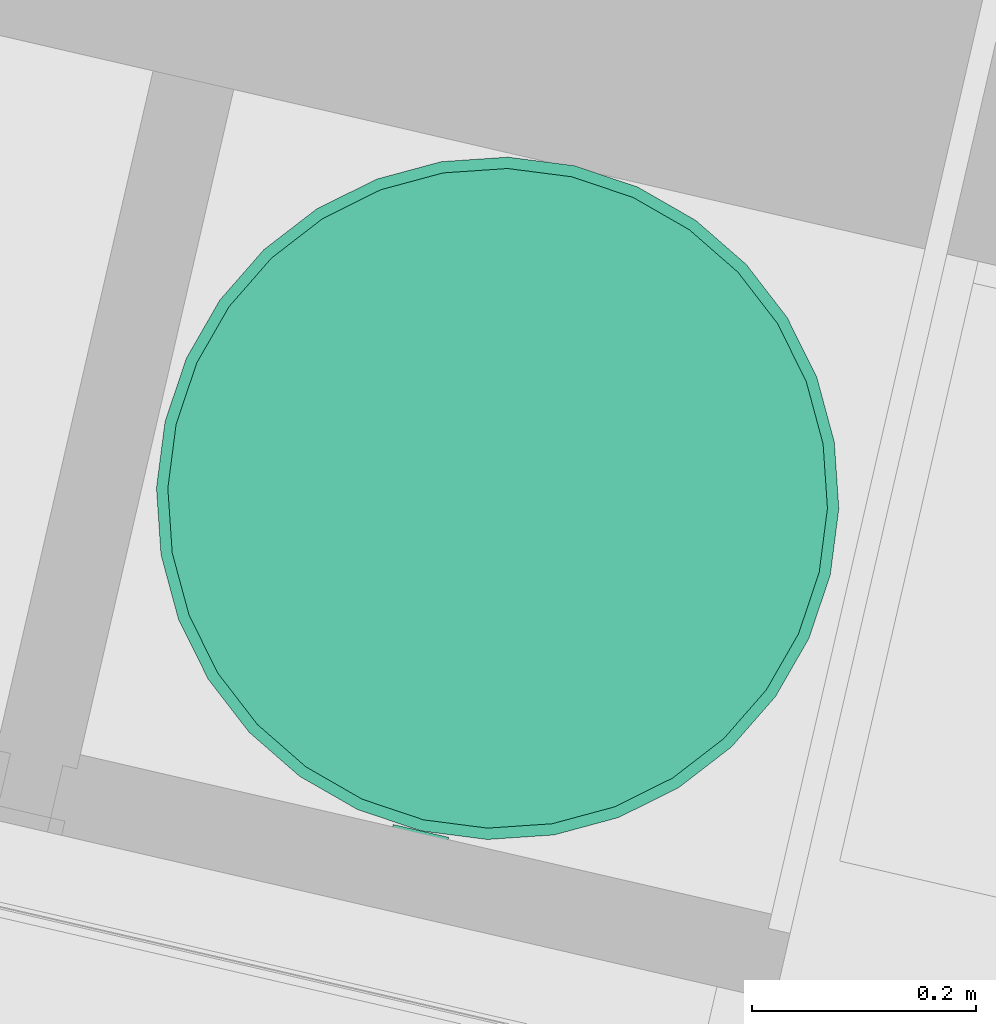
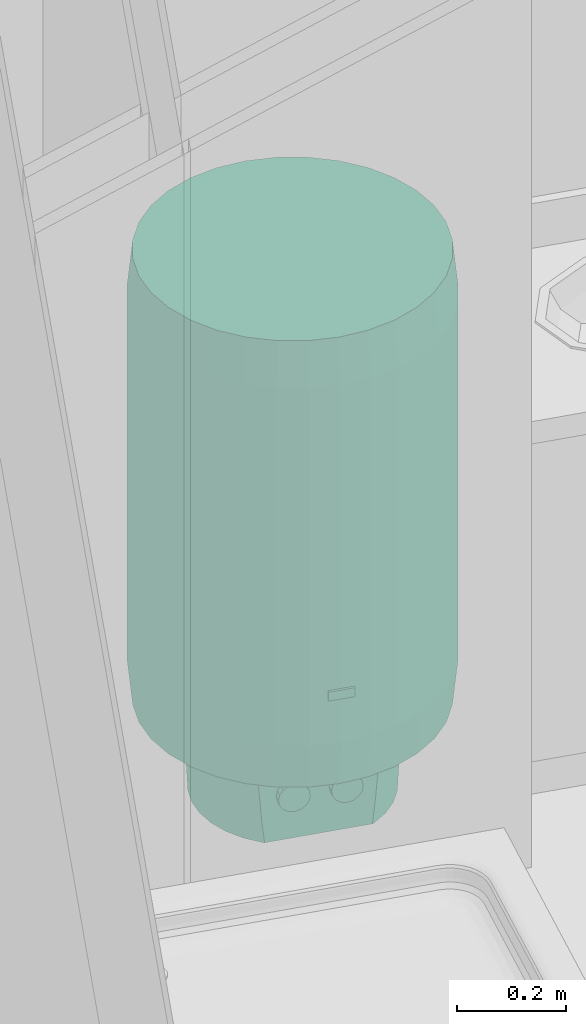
# One storey, part 50 of 62: 1 energy conversion device.
"""IFC2X3 building model written with IfcOpenShell, lengths in metres."""

from ifc_helpers import new_model, entity, si_unit, converted_unit, derived_unit, money_unit, direction, frame, origin_with_axes, place, context, subcontext, project, spatial, faceted_brep, source, transform, mapped, type_object, element, save


model = new_model("IFC2X3")

# Units and contexts
model_context = context("Model", 3, precision=1e-05, world=origin_with_axes(), true_north=direction((0.0, 1.0)))
body_context = subcontext(model_context, "Body", "Model", "MODEL_VIEW")
ifc_project = project(units=[si_unit("LENGTHUNIT", "METRE"), si_unit("AREAUNIT", "SQUARE_METRE"), si_unit("VOLUMEUNIT", "CUBIC_METRE"), converted_unit("PLANEANGLEUNIT", "DEGREE", entity("IfcPlaneAngleMeasure", 0.0174532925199), si_unit("PLANEANGLEUNIT", "RADIAN"), dimensions=[0, 0, 0, 0, 0, 0, 0]), si_unit("SOLIDANGLEUNIT", "STERADIAN"), money_unit("EUR"), converted_unit("TIMEUNIT", "Year", entity("IfcTimeMeasure", 31556926.0), si_unit("TIMEUNIT", "SECOND"), dimensions=[0, 0, 1, 0, 0, 0, 0]), si_unit("MASSUNIT", "GRAM", prefix="KILO"), si_unit("THERMODYNAMICTEMPERATUREUNIT", "DEGREE_CELSIUS"), si_unit("LUMINOUSINTENSITYUNIT", "LUMEN"), si_unit("ENERGYUNIT", "JOULE", prefix="MEGA"), derived_unit("THERMALCONDUCTANCEUNIT", [(si_unit("POWERUNIT", "WATT"), 1), (si_unit("LENGTHUNIT", "METRE"), -1), (si_unit("THERMODYNAMICTEMPERATUREUNIT", "KELVIN"), -1)]), derived_unit("SPECIFICHEATCAPACITYUNIT", [(si_unit("ENERGYUNIT", "JOULE"), 1), (si_unit("MASSUNIT", "GRAM", prefix="KILO"), -1), (si_unit("THERMODYNAMICTEMPERATUREUNIT", "KELVIN"), -1)]), derived_unit("MASSDENSITYUNIT", [(si_unit("MASSUNIT", "GRAM", prefix="KILO"), 1), (si_unit("VOLUMEUNIT", "CUBIC_METRE"), -1)])], contexts=[model_context])

# Site, building, storey
site_placement = place(None, origin_with_axes())
site = spatial("IfcSite", under=ifc_project, at=site_placement, Name="Site", CompositionType="ELEMENT")
building_placement = place(site_placement, origin_with_axes())
building = spatial("IfcBuilding", under=site, at=building_placement, Name="Bâtiment", CompositionType="ELEMENT")
storey_placement = place(building_placement, frame((0.0, 0.0, 8.16), z_axis=(0.0, 0.0, 1.0), x_axis=(1.0, 0.0, 0.0)))
storey = spatial("IfcBuildingStorey", under=building, at=storey_placement, Name="R+3", CompositionType="ELEMENT", Elevation=8.16)

# Energy conversion device
heat_exchanger_type = type_object("IfcHeatExchangerType", Name="Chauffe-eau électrique 23", PredefinedType="SHELLANDTUBE")
shared_shape = source(origin_with_axes(), body_context, "Body", "Brep", [
    faceted_brep([(-0.0254166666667, -0.310083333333, 0.4), (-0.0254166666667, -0.305, 0.4), (0.0254166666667, -0.305, 0.4), (0.0254166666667, -0.310083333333, 0.4), (-0.0254166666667, -0.310083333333, 0.42), (-0.0254166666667, -0.305, 0.42), (0.0254166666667, -0.305, 0.42), (0.0254166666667, -0.310083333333, 0.42)], [[[0, 1, 2, 3]], [[0, 4, 5, 1]], [[1, 5, 6, 2]], [[2, 6, 7, 3]], [[3, 7, 4, 0]], [[7, 6, 5, 4]]]),
    faceted_brep([(0.0226550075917, -0.162666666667, 0.0883281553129), (0.0203333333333, -0.162666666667, 0.1), (0.0226550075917, -0.162666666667, 0.111671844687), (0.0292665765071, -0.162666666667, 0.121566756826), (0.0391614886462, -0.162666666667, 0.128178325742), (0.0508333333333, -0.162666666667, 0.1305), (0.0625051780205, -0.162666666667, 0.128178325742), (0.0724000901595, -0.162666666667, 0.121566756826), (0.0790116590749, -0.162666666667, 0.111671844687), (0.0813333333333, -0.162666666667, 0.1), (0.0790116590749, -0.162666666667, 0.0883281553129), (0.0724000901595, -0.162666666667, 0.0784332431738), (0.0625051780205, -0.162666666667, 0.0718216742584), (0.0508333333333, -0.162666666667, 0.0695), (0.0391614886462, -0.162666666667, 0.0718216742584), (0.0292665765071, -0.162666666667, 0.0784332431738), (0.0226550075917, -0.177916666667, 0.0883281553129), (0.0203333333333, -0.177916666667, 0.1), (0.0226550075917, -0.177916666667, 0.111671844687), (0.0292665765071, -0.177916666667, 0.121566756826), (0.0391614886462, -0.177916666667, 0.128178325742), (0.0508333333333, -0.177916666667, 0.1305), (0.0625051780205, -0.177916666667, 0.128178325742), (0.0724000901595, -0.177916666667, 0.121566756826), (0.0790116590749, -0.177916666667, 0.111671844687), (0.0813333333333, -0.177916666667, 0.1), (0.0790116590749, -0.177916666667, 0.0883281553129), (0.0724000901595, -0.177916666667, 0.0784332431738), (0.0625051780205, -0.177916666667, 0.0718216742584), (0.0508333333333, -0.177916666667, 0.0695), (0.0391614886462, -0.177916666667, 0.0718216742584), (0.0292665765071, -0.177916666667, 0.0784332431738)], [[[0, 1, 2, 3, 4, 5, 6, 7, 8, 9, 10, 11, 12, 13, 14, 15]], [[0, 16, 17, 1]], [[1, 17, 18, 2]], [[2, 18, 19, 3]], [[3, 19, 20, 4]], [[4, 20, 21, 5]], [[5, 21, 22, 6]], [[6, 22, 23, 7]], [[7, 23, 24, 8]], [[8, 24, 25, 9]], [[9, 25, 26, 10]], [[10, 26, 27, 11]], [[11, 27, 28, 12]], [[12, 28, 29, 13]], [[13, 29, 30, 14]], [[14, 30, 31, 15]], [[15, 31, 16, 0]], [[16, 31, 30, 29, 28, 27, 26, 25, 24, 23, 22, 21, 20, 19, 18, 17]]]),
    faceted_brep([(-0.0790116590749, -0.162666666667, 0.0883281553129), (-0.0813333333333, -0.162666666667, 0.1), (-0.0790116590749, -0.162666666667, 0.111671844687), (-0.0724000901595, -0.162666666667, 0.121566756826), (-0.0625051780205, -0.162666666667, 0.128178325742), (-0.0508333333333, -0.162666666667, 0.1305), (-0.0391614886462, -0.162666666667, 0.128178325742), (-0.0292665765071, -0.162666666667, 0.121566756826), (-0.0226550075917, -0.162666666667, 0.111671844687), (-0.0203333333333, -0.162666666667, 0.1), (-0.0226550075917, -0.162666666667, 0.0883281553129), (-0.0292665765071, -0.162666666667, 0.0784332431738), (-0.0391614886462, -0.162666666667, 0.0718216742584), (-0.0508333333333, -0.162666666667, 0.0695), (-0.0625051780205, -0.162666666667, 0.0718216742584), (-0.0724000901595, -0.162666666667, 0.0784332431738), (-0.0790116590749, -0.177916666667, 0.0883281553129), (-0.0813333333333, -0.177916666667, 0.1), (-0.0790116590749, -0.177916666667, 0.111671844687), (-0.0724000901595, -0.177916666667, 0.121566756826), (-0.0625051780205, -0.177916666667, 0.128178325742), (-0.0508333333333, -0.177916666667, 0.1305), (-0.0391614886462, -0.177916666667, 0.128178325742), (-0.0292665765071, -0.177916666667, 0.121566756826), (-0.0226550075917, -0.177916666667, 0.111671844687), (-0.0203333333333, -0.177916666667, 0.1), (-0.0226550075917, -0.177916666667, 0.0883281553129), (-0.0292665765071, -0.177916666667, 0.0784332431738), (-0.0391614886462, -0.177916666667, 0.0718216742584), (-0.0508333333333, -0.177916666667, 0.0695), (-0.0625051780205, -0.177916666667, 0.0718216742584), (-0.0724000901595, -0.177916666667, 0.0784332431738)], [[[0, 1, 2, 3, 4, 5, 6, 7, 8, 9, 10, 11, 12, 13, 14, 15]], [[0, 16, 17, 1]], [[1, 17, 18, 2]], [[2, 18, 19, 3]], [[3, 19, 20, 4]], [[4, 20, 21, 5]], [[5, 21, 22, 6]], [[6, 22, 23, 7]], [[7, 23, 24, 8]], [[8, 24, 25, 9]], [[9, 25, 26, 10]], [[10, 26, 27, 11]], [[11, 27, 28, 12]], [[12, 28, 29, 13]], [[13, 29, 30, 14]], [[14, 30, 31, 15]], [[15, 31, 16, 0]], [[16, 31, 30, 29, 28, 27, 26, 25, 24, 23, 22, 21, 20, 19, 18, 17]]]),
    faceted_brep([(-0.189455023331, -0.0376849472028, 0.0), (-0.199426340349, -0.0396683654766, 0.2), (-0.203333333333, 0.0, 0.2), (-0.193166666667, 0.0, 0.0), (-0.178462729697, -0.0739216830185, 0.0), (-0.187855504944, -0.0778122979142, 0.2), (-0.169065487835, -0.112965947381, 0.2), (-0.143778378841, -0.143778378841, 0.2), (-0.120762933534, -0.162666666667, 0.2), (0.120762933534, -0.162666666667, 0.2), (0.143778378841, -0.143778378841, 0.2), (0.169065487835, -0.112965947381, 0.2), (0.187855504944, -0.0778122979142, 0.2), (0.199426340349, -0.0396683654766, 0.2), (0.203333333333, 0.0, 0.2), (0.199426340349, 0.0396683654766, 0.2), (0.187855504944, 0.0778122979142, 0.2), (0.169065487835, 0.112965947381, 0.2), (0.143778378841, 0.143778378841, 0.2), (0.112965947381, 0.169065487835, 0.2), (0.0778122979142, 0.187855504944, 0.2), (0.0396683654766, 0.199426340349, 0.2), (0.0, 0.203333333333, 0.2), (-0.0396683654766, 0.199426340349, 0.2), (-0.0778122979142, 0.187855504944, 0.2), (-0.112965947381, 0.169065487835, 0.2), (-0.143778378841, 0.143778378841, 0.2), (-0.169065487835, 0.112965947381, 0.2), (-0.187855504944, 0.0778122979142, 0.2), (-0.199426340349, 0.0396683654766, 0.2), (-0.189455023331, 0.0376849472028, 0.0), (-0.178462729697, 0.0739216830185, 0.0), (-0.160612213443, 0.107317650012, 0.0), (-0.136589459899, 0.136589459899, 0.0), (-0.107317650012, 0.160612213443, 0.0), (-0.0739216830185, 0.178462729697, 0.0), (-0.0376849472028, 0.189455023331, 0.0), (0.0, 0.193166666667, 0.0), (0.0376849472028, 0.189455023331, 0.0), (0.0739216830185, 0.178462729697, 0.0), (0.107317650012, 0.160612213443, 0.0), (0.136589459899, 0.136589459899, 0.0), (0.160612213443, 0.107317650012, 0.0), (0.178462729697, 0.0739216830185, 0.0), (0.189455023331, 0.0376849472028, 0.0), (0.193166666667, 0.0, 0.0), (0.189455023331, -0.0376849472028, 0.0), (0.178462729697, -0.0739216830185, 0.0), (0.160612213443, -0.107317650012, 0.0), (0.136589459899, -0.136589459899, 0.0), (0.107317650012, -0.160612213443, 0.0), (0.103474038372, -0.162666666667, 0.0), (-0.103474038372, -0.162666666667, 0.0), (-0.107317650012, -0.160612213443, 0.0), (-0.136589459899, -0.136589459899, 0.0), (-0.160612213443, -0.107317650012, 0.0), (-0.108690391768, -0.162666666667, 0.0486072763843), (0.108690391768, -0.162666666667, 0.0486072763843)], [[[0, 1, 2, 3]], [[4, 5, 1, 0]], [[1, 5, 6, 7, 8, 9, 10, 11, 12, 13, 14, 15, 16, 17, 18, 19, 20, 21, 22, 23, 24, 25, 26, 27, 28, 29, 2]], [[3, 2, 29, 30]], [[0, 3, 30, 31, 32, 33, 34, 35, 36, 37, 38, 39, 40, 41, 42, 43, 44, 45, 46, 47, 48, 49, 50, 51, 52, 53, 54, 55, 4]], [[55, 6, 5, 4]], [[54, 7, 6, 55]], [[53, 56, 8, 7, 54]], [[51, 57, 9, 8, 56, 52]], [[49, 10, 9, 57, 50]], [[48, 11, 10, 49]], [[47, 12, 11, 48]], [[46, 13, 12, 47]], [[45, 14, 13, 46]], [[44, 15, 14, 45]], [[43, 16, 15, 44]], [[42, 17, 16, 43]], [[41, 18, 17, 42]], [[40, 19, 18, 41]], [[39, 20, 19, 40]], [[38, 21, 20, 39]], [[37, 22, 21, 38]], [[36, 23, 22, 37]], [[35, 24, 23, 36]], [[34, 25, 24, 35]], [[33, 26, 25, 34]], [[32, 27, 26, 33]], [[31, 28, 27, 32]], [[30, 29, 28, 31]], [[50, 57, 51]], [[52, 56, 53]]]),
    faceted_brep([(-0.289168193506, -0.0575191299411, 0.2), (-0.299139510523, -0.0595025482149, 0.3), (-0.305, 0.0, 0.3), (-0.294833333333, 0.0, 0.2), (-0.272390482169, -0.112827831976, 0.2), (-0.281783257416, -0.116718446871, 0.3), (-0.253598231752, -0.169448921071, 0.3), (-0.215667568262, -0.215667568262, 0.3), (-0.169448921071, -0.253598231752, 0.3), (-0.116718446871, -0.281783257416, 0.3), (-0.0595025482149, -0.299139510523, 0.3), (0.0, -0.305, 0.3), (0.0595025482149, -0.299139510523, 0.3), (0.116718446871, -0.281783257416, 0.3), (0.169448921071, -0.253598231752, 0.3), (0.215667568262, -0.215667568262, 0.3), (0.253598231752, -0.169448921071, 0.3), (0.281783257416, -0.116718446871, 0.3), (0.299139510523, -0.0595025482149, 0.3), (0.305, 0.0, 0.3), (0.299139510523, 0.0595025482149, 0.3), (0.281783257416, 0.116718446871, 0.3), (0.253598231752, 0.169448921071, 0.3), (0.215667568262, 0.215667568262, 0.3), (0.169448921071, 0.253598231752, 0.3), (0.116718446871, 0.281783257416, 0.3), (0.0595025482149, 0.299139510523, 0.3), (0.0, 0.305, 0.3), (-0.0595025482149, 0.299139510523, 0.3), (-0.116718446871, 0.281783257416, 0.3), (-0.169448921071, 0.253598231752, 0.3), (-0.215667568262, 0.215667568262, 0.3), (-0.253598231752, 0.169448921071, 0.3), (-0.281783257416, 0.116718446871, 0.3), (-0.299139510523, 0.0595025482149, 0.3), (-0.289168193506, 0.0575191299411, 0.2), (-0.272390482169, 0.112827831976, 0.2), (-0.245144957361, 0.163800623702, 0.2), (-0.20847864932, 0.20847864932, 0.2), (-0.163800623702, 0.245144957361, 0.2), (-0.112827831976, 0.272390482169, 0.2), (-0.0575191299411, 0.289168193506, 0.2), (0.0, 0.294833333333, 0.2), (0.0575191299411, 0.289168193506, 0.2), (0.112827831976, 0.272390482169, 0.2), (0.163800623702, 0.245144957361, 0.2), (0.20847864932, 0.20847864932, 0.2), (0.245144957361, 0.163800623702, 0.2), (0.272390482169, 0.112827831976, 0.2), (0.289168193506, 0.0575191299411, 0.2), (0.294833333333, 0.0, 0.2), (0.289168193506, -0.0575191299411, 0.2), (0.272390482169, -0.112827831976, 0.2), (0.245144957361, -0.163800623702, 0.2), (0.20847864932, -0.20847864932, 0.2), (0.163800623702, -0.245144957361, 0.2), (0.112827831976, -0.272390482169, 0.2), (0.0575191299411, -0.289168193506, 0.2), (0.0, -0.294833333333, 0.2), (-0.0575191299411, -0.289168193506, 0.2), (-0.112827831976, -0.272390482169, 0.2), (-0.163800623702, -0.245144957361, 0.2), (-0.20847864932, -0.20847864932, 0.2), (-0.245144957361, -0.163800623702, 0.2)], [[[0, 1, 2, 3]], [[4, 5, 1, 0]], [[1, 5, 6, 7, 8, 9, 10, 11, 12, 13, 14, 15, 16, 17, 18, 19, 20, 21, 22, 23, 24, 25, 26, 27, 28, 29, 30, 31, 32, 33, 34, 2]], [[3, 2, 34, 35]], [[0, 3, 35, 36, 37, 38, 39, 40, 41, 42, 43, 44, 45, 46, 47, 48, 49, 50, 51, 52, 53, 54, 55, 56, 57, 58, 59, 60, 61, 62, 63, 4]], [[63, 6, 5, 4]], [[62, 7, 6, 63]], [[61, 8, 7, 62]], [[60, 9, 8, 61]], [[59, 10, 9, 60]], [[58, 11, 10, 59]], [[57, 12, 11, 58]], [[56, 13, 12, 57]], [[55, 14, 13, 56]], [[54, 15, 14, 55]], [[53, 16, 15, 54]], [[52, 17, 16, 53]], [[51, 18, 17, 52]], [[50, 19, 18, 51]], [[49, 20, 19, 50]], [[48, 21, 20, 49]], [[47, 22, 21, 48]], [[46, 23, 22, 47]], [[45, 24, 23, 46]], [[44, 25, 24, 45]], [[43, 26, 25, 44]], [[42, 27, 26, 43]], [[41, 28, 27, 42]], [[40, 29, 28, 41]], [[39, 30, 29, 40]], [[38, 31, 30, 39]], [[37, 32, 31, 38]], [[36, 33, 32, 37]], [[35, 34, 33, 36]]]),
    faceted_brep([(-0.299139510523, -0.0595025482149, 0.3), (-0.305, 0.0, 0.3), (-0.299139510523, 0.0595025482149, 0.3), (-0.281783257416, 0.116718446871, 0.3), (-0.253598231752, 0.169448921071, 0.3), (-0.215667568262, 0.215667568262, 0.3), (-0.169448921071, 0.253598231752, 0.3), (-0.116718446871, 0.281783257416, 0.3), (-0.0595025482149, 0.299139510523, 0.3), (0.0, 0.305, 0.3), (0.0595025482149, 0.299139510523, 0.3), (0.116718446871, 0.281783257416, 0.3), (0.169448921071, 0.253598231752, 0.3), (0.215667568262, 0.215667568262, 0.3), (0.253598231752, 0.169448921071, 0.3), (0.281783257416, 0.116718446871, 0.3), (0.299139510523, 0.0595025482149, 0.3), (0.305, 0.0, 0.3), (0.299139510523, -0.0595025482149, 0.3), (0.281783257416, -0.116718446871, 0.3), (0.253598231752, -0.169448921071, 0.3), (0.215667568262, -0.215667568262, 0.3), (0.169448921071, -0.253598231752, 0.3), (0.116718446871, -0.281783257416, 0.3), (0.0595025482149, -0.299139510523, 0.3), (0.0, -0.305, 0.3), (-0.0595025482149, -0.299139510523, 0.3), (-0.116718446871, -0.281783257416, 0.3), (-0.169448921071, -0.253598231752, 0.3), (-0.215667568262, -0.215667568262, 0.3), (-0.253598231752, -0.169448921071, 0.3), (-0.281783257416, -0.116718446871, 0.3), (-0.299139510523, -0.0595025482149, 1.1), (-0.305, 0.0, 1.1), (-0.299139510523, 0.0595025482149, 1.1), (-0.281783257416, 0.116718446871, 1.1), (-0.253598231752, 0.169448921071, 1.1), (-0.215667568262, 0.215667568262, 1.1), (-0.169448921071, 0.253598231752, 1.1), (-0.116718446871, 0.281783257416, 1.1), (-0.0595025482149, 0.299139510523, 1.1), (0.0, 0.305, 1.1), (0.0595025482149, 0.299139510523, 1.1), (0.116718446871, 0.281783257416, 1.1), (0.169448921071, 0.253598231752, 1.1), (0.215667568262, 0.215667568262, 1.1), (0.253598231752, 0.169448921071, 1.1), (0.281783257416, 0.116718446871, 1.1), (0.299139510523, 0.0595025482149, 1.1), (0.305, 0.0, 1.1), (0.299139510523, -0.0595025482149, 1.1), (0.281783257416, -0.116718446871, 1.1), (0.253598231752, -0.169448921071, 1.1), (0.215667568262, -0.215667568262, 1.1), (0.169448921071, -0.253598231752, 1.1), (0.116718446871, -0.281783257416, 1.1), (0.0595025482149, -0.299139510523, 1.1), (0.0, -0.305, 1.1), (-0.0595025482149, -0.299139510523, 1.1), (-0.116718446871, -0.281783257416, 1.1), (-0.169448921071, -0.253598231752, 1.1), (-0.215667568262, -0.215667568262, 1.1), (-0.253598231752, -0.169448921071, 1.1), (-0.281783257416, -0.116718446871, 1.1)], [[[0, 1, 2, 3, 4, 5, 6, 7, 8, 9, 10, 11, 12, 13, 14, 15, 16, 17, 18, 19, 20, 21, 22, 23, 24, 25, 26, 27, 28, 29, 30, 31]], [[0, 32, 33, 1]], [[1, 33, 34, 2]], [[2, 34, 35, 3]], [[3, 35, 36, 4]], [[4, 36, 37, 5]], [[5, 37, 38, 6]], [[6, 38, 39, 7]], [[7, 39, 40, 8]], [[8, 40, 41, 9]], [[9, 41, 42, 10]], [[10, 42, 43, 11]], [[11, 43, 44, 12]], [[12, 44, 45, 13]], [[13, 45, 46, 14]], [[14, 46, 47, 15]], [[15, 47, 48, 16]], [[16, 48, 49, 17]], [[17, 49, 50, 18]], [[18, 50, 51, 19]], [[19, 51, 52, 20]], [[20, 52, 53, 21]], [[21, 53, 54, 22]], [[22, 54, 55, 23]], [[23, 55, 56, 24]], [[24, 56, 57, 25]], [[25, 57, 58, 26]], [[26, 58, 59, 27]], [[27, 59, 60, 28]], [[28, 60, 61, 29]], [[29, 61, 62, 30]], [[30, 62, 63, 31]], [[31, 63, 32, 0]], [[32, 63, 62, 61, 60, 59, 58, 57, 56, 55, 54, 53, 52, 51, 50, 49, 48, 47, 46, 45, 44, 43, 42, 41, 40, 39, 38, 37, 36, 35, 34, 33]]]),
    faceted_brep([(-0.299139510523, -0.0595025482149, 1.1), (-0.289168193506, -0.0575191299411, 1.2), (-0.294833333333, 0.0, 1.2), (-0.305, 0.0, 1.1), (-0.281783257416, -0.116718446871, 1.1), (-0.272390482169, -0.112827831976, 1.2), (-0.245144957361, -0.163800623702, 1.2), (-0.20847864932, -0.20847864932, 1.2), (-0.163800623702, -0.245144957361, 1.2), (-0.112827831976, -0.272390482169, 1.2), (-0.0575191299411, -0.289168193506, 1.2), (0.0, -0.294833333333, 1.2), (0.0575191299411, -0.289168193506, 1.2), (0.112827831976, -0.272390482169, 1.2), (0.163800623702, -0.245144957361, 1.2), (0.20847864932, -0.20847864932, 1.2), (0.245144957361, -0.163800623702, 1.2), (0.272390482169, -0.112827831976, 1.2), (0.289168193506, -0.0575191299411, 1.2), (0.294833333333, 0.0, 1.2), (0.289168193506, 0.0575191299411, 1.2), (0.272390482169, 0.112827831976, 1.2), (0.245144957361, 0.163800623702, 1.2), (0.20847864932, 0.20847864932, 1.2), (0.163800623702, 0.245144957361, 1.2), (0.112827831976, 0.272390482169, 1.2), (0.0575191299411, 0.289168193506, 1.2), (0.0, 0.294833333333, 1.2), (-0.0575191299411, 0.289168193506, 1.2), (-0.112827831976, 0.272390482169, 1.2), (-0.163800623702, 0.245144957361, 1.2), (-0.20847864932, 0.20847864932, 1.2), (-0.245144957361, 0.163800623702, 1.2), (-0.272390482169, 0.112827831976, 1.2), (-0.289168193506, 0.0575191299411, 1.2), (-0.299139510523, 0.0595025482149, 1.1), (-0.281783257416, 0.116718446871, 1.1), (-0.253598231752, 0.169448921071, 1.1), (-0.215667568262, 0.215667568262, 1.1), (-0.169448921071, 0.253598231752, 1.1), (-0.116718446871, 0.281783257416, 1.1), (-0.0595025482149, 0.299139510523, 1.1), (0.0, 0.305, 1.1), (0.0595025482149, 0.299139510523, 1.1), (0.116718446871, 0.281783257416, 1.1), (0.169448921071, 0.253598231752, 1.1), (0.215667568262, 0.215667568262, 1.1), (0.253598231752, 0.169448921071, 1.1), (0.281783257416, 0.116718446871, 1.1), (0.299139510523, 0.0595025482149, 1.1), (0.305, 0.0, 1.1), (0.299139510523, -0.0595025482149, 1.1), (0.281783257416, -0.116718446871, 1.1), (0.253598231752, -0.169448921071, 1.1), (0.215667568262, -0.215667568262, 1.1), (0.169448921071, -0.253598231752, 1.1), (0.116718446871, -0.281783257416, 1.1), (0.0595025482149, -0.299139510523, 1.1), (0.0, -0.305, 1.1), (-0.0595025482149, -0.299139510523, 1.1), (-0.116718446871, -0.281783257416, 1.1), (-0.169448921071, -0.253598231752, 1.1), (-0.215667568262, -0.215667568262, 1.1), (-0.253598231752, -0.169448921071, 1.1)], [[[0, 1, 2, 3]], [[4, 5, 1, 0]], [[1, 5, 6, 7, 8, 9, 10, 11, 12, 13, 14, 15, 16, 17, 18, 19, 20, 21, 22, 23, 24, 25, 26, 27, 28, 29, 30, 31, 32, 33, 34, 2]], [[3, 2, 34, 35]], [[0, 3, 35, 36, 37, 38, 39, 40, 41, 42, 43, 44, 45, 46, 47, 48, 49, 50, 51, 52, 53, 54, 55, 56, 57, 58, 59, 60, 61, 62, 63, 4]], [[63, 6, 5, 4]], [[62, 7, 6, 63]], [[61, 8, 7, 62]], [[60, 9, 8, 61]], [[59, 10, 9, 60]], [[58, 11, 10, 59]], [[57, 12, 11, 58]], [[56, 13, 12, 57]], [[55, 14, 13, 56]], [[54, 15, 14, 55]], [[53, 16, 15, 54]], [[52, 17, 16, 53]], [[51, 18, 17, 52]], [[50, 19, 18, 51]], [[49, 20, 19, 50]], [[48, 21, 20, 49]], [[47, 22, 21, 48]], [[46, 23, 22, 47]], [[45, 24, 23, 46]], [[44, 25, 24, 45]], [[43, 26, 25, 44]], [[42, 27, 26, 43]], [[41, 28, 27, 42]], [[40, 29, 28, 41]], [[39, 30, 29, 40]], [[38, 31, 30, 39]], [[37, 32, 31, 38]], [[36, 33, 32, 37]], [[35, 34, 33, 36]]]),
])
energy_conversion_device_placement = place(storey_placement, frame((-10.1015578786, 11.5785123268, 0.0), z_axis=(0.0, 0.0, 1.0), x_axis=(0.974387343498, -0.224876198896, 0.0)))
element("IfcEnergyConversionDevice", 1, at=energy_conversion_device_placement, inside=storey, type_object=heat_exchanger_type, Name="MOB-002", context=body_context, shape_type="MappedRepresentation", body=[
    mapped(shared_shape, transform((0.0, 0.0, 0.0))),
])

save(model, "model.ifc")
